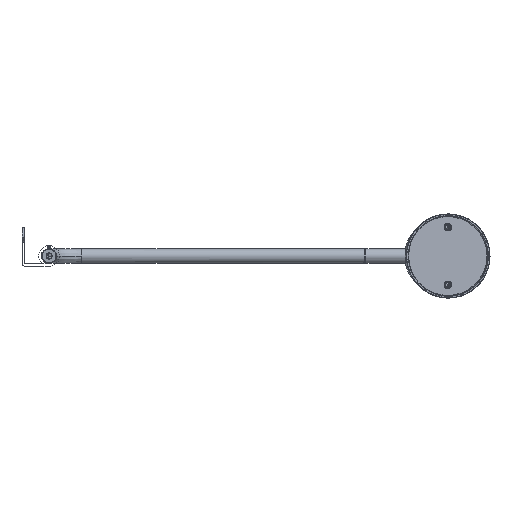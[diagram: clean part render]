
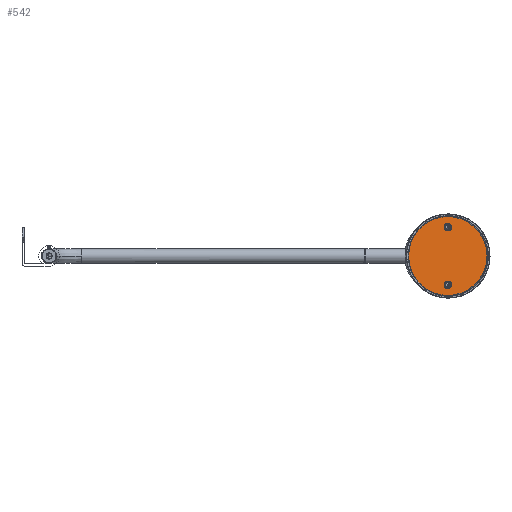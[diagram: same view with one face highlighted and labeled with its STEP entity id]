
A CAD part, front view. The second image highlights one B-rep face of the part: STEP entity #542.
In plain terms, the highlighted planar face has unit normal (0.122, -0.993, 0).
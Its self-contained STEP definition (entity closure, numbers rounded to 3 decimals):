
#36 = CARTESIAN_POINT ( 'NONE',  ( 353.667, 158.218, -47.45 ) ) ;
#173 = AXIS2_PLACEMENT_3D ( 'NONE', #36, #3770, #780 ) ;
#286 = CIRCLE ( 'NONE', #2476, 3.15 ) ;
#483 = DIRECTION ( 'NONE',  ( -0.122, 0.993, 0. ) ) ;
#535 = ORIENTED_EDGE ( 'NONE', *, *, #2334, .T. ) ;
#542 = ADVANCED_FACE ( 'NONE', ( #2269, #4380, #2550 ), #1221, .T. ) ;
#724 = AXIS2_PLACEMENT_3D ( 'NONE', #4079, #4059, #1703 ) ;
#780 = DIRECTION ( 'NONE',  ( -0.993, -0.122, 0. ) ) ;
#939 = VERTEX_POINT ( 'NONE', #1346 ) ;
#1133 = VERTEX_POINT ( 'NONE', #2209 ) ;
#1184 = DIRECTION ( 'NONE',  ( -0.122, 0.993, 0. ) ) ;
#1221 = PLANE ( 'NONE',  #4087 ) ;
#1297 = AXIS2_PLACEMENT_3D ( 'NONE', #1437, #2453, #2915 ) ;
#1346 = CARTESIAN_POINT ( 'NONE',  ( 356.794, 158.602, 0.55 ) ) ;
#1366 = CIRCLE ( 'NONE', #1297, 32.75 ) ;
#1393 = ORIENTED_EDGE ( 'NONE', *, *, #3499, .T. ) ;
#1437 = CARTESIAN_POINT ( 'NONE',  ( 353.667, 158.218, -23.45 ) ) ;
#1462 = EDGE_CURVE ( 'NONE', #3173, #1133, #3434, .T. ) ;
#1549 = VERTEX_POINT ( 'NONE', #4015 ) ;
#1619 = DIRECTION ( 'NONE',  ( -0.993, -0.122, 0. ) ) ;
#1641 = CARTESIAN_POINT ( 'NONE',  ( 353.667, 158.218, 0.55 ) ) ;
#1660 = EDGE_CURVE ( 'NONE', #939, #1549, #2251, .T. ) ;
#1688 = ORIENTED_EDGE ( 'NONE', *, *, #3720, .F. ) ;
#1703 = DIRECTION ( 'NONE',  ( -0.993, -0.122, 0. ) ) ;
#1783 = DIRECTION ( 'NONE',  ( 0.993, 0.122, 0. ) ) ;
#2074 = CIRCLE ( 'NONE', #3922, 32.75 ) ;
#2107 = AXIS2_PLACEMENT_3D ( 'NONE', #2504, #483, #3857 ) ;
#2209 = CARTESIAN_POINT ( 'NONE',  ( 350.541, 157.834, -47.45 ) ) ;
#2249 = ORIENTED_EDGE ( 'NONE', *, *, #3714, .F. ) ;
#2251 = CIRCLE ( 'NONE', #2107, 3.15 ) ;
#2265 = EDGE_LOOP ( 'NONE', ( #1393, #2927 ) ) ;
#2269 = FACE_BOUND ( 'NONE', #2693, .T. ) ;
#2334 = EDGE_CURVE ( 'NONE', #1549, #939, #286, .T. ) ;
#2382 = VERTEX_POINT ( 'NONE', #4364 ) ;
#2453 = DIRECTION ( 'NONE',  ( -0.122, 0.993, 0. ) ) ;
#2476 = AXIS2_PLACEMENT_3D ( 'NONE', #1641, #3625, #1619 ) ;
#2504 = CARTESIAN_POINT ( 'NONE',  ( 353.667, 158.218, 0.55 ) ) ;
#2550 = FACE_OUTER_BOUND ( 'NONE', #2949, .T. ) ;
#2595 = DIRECTION ( 'NONE',  ( -0.993, -0.122, 0. ) ) ;
#2677 = CARTESIAN_POINT ( 'NONE',  ( 353.667, 158.218, -23.45 ) ) ;
#2693 = EDGE_LOOP ( 'NONE', ( #535, #3809 ) ) ;
#2915 = DIRECTION ( 'NONE',  ( 0.993, 0.122, 0. ) ) ;
#2927 = ORIENTED_EDGE ( 'NONE', *, *, #1462, .T. ) ;
#2931 = DIRECTION ( 'NONE',  ( 0.122, -0.993, 0. ) ) ;
#2949 = EDGE_LOOP ( 'NONE', ( #1688, #2249 ) ) ;
#3130 = CIRCLE ( 'NONE', #724, 3.15 ) ;
#3173 = VERTEX_POINT ( 'NONE', #3795 ) ;
#3268 = CARTESIAN_POINT ( 'NONE',  ( 321.161, 154.227, -23.45 ) ) ;
#3434 = CIRCLE ( 'NONE', #173, 3.15 ) ;
#3499 = EDGE_CURVE ( 'NONE', #1133, #3173, #3130, .T. ) ;
#3625 = DIRECTION ( 'NONE',  ( -0.122, 0.993, 0. ) ) ;
#3714 = EDGE_CURVE ( 'NONE', #4229, #2382, #2074, .T. ) ;
#3720 = EDGE_CURVE ( 'NONE', #2382, #4229, #1366, .T. ) ;
#3770 = DIRECTION ( 'NONE',  ( -0.122, 0.993, 0. ) ) ;
#3786 = CARTESIAN_POINT ( 'NONE',  ( 353.667, 158.218, -23.45 ) ) ;
#3795 = CARTESIAN_POINT ( 'NONE',  ( 356.794, 158.602, -47.45 ) ) ;
#3809 = ORIENTED_EDGE ( 'NONE', *, *, #1660, .T. ) ;
#3857 = DIRECTION ( 'NONE',  ( -0.993, -0.122, 0. ) ) ;
#3922 = AXIS2_PLACEMENT_3D ( 'NONE', #3786, #1184, #1783 ) ;
#4015 = CARTESIAN_POINT ( 'NONE',  ( 350.541, 157.834, 0.55 ) ) ;
#4059 = DIRECTION ( 'NONE',  ( -0.122, 0.993, 0. ) ) ;
#4079 = CARTESIAN_POINT ( 'NONE',  ( 353.667, 158.218, -47.45 ) ) ;
#4087 = AXIS2_PLACEMENT_3D ( 'NONE', #2677, #2931, #2595 ) ;
#4229 = VERTEX_POINT ( 'NONE', #3268 ) ;
#4364 = CARTESIAN_POINT ( 'NONE',  ( 386.173, 162.209, -23.45 ) ) ;
#4380 = FACE_BOUND ( 'NONE', #2265, .T. ) ;
